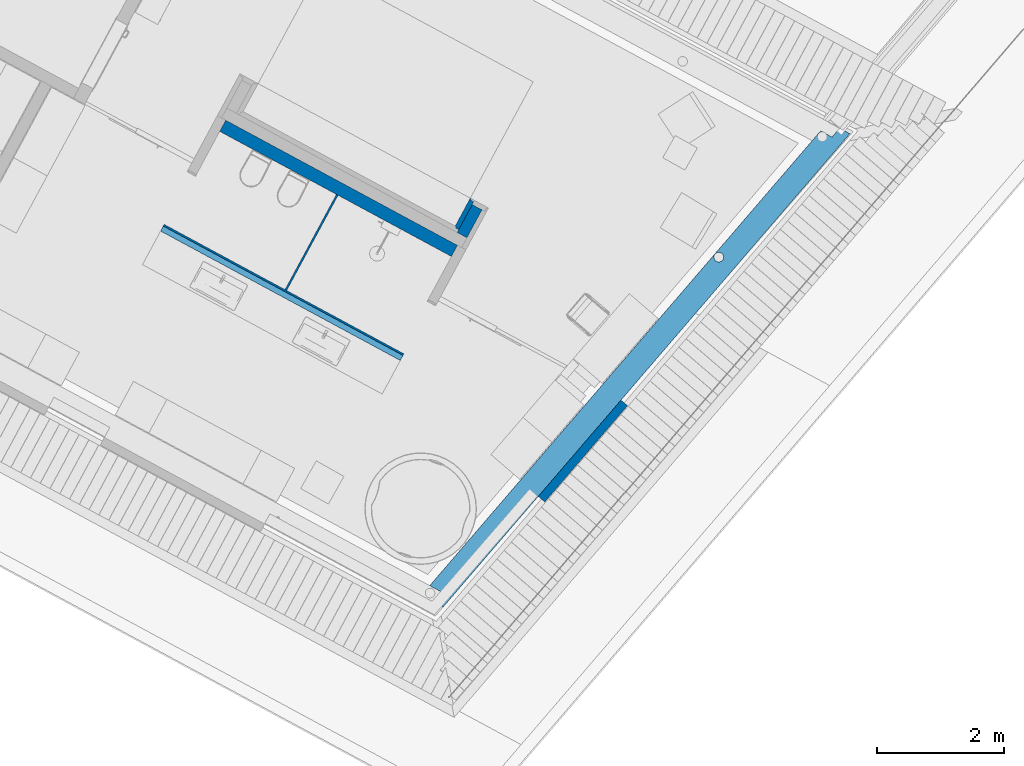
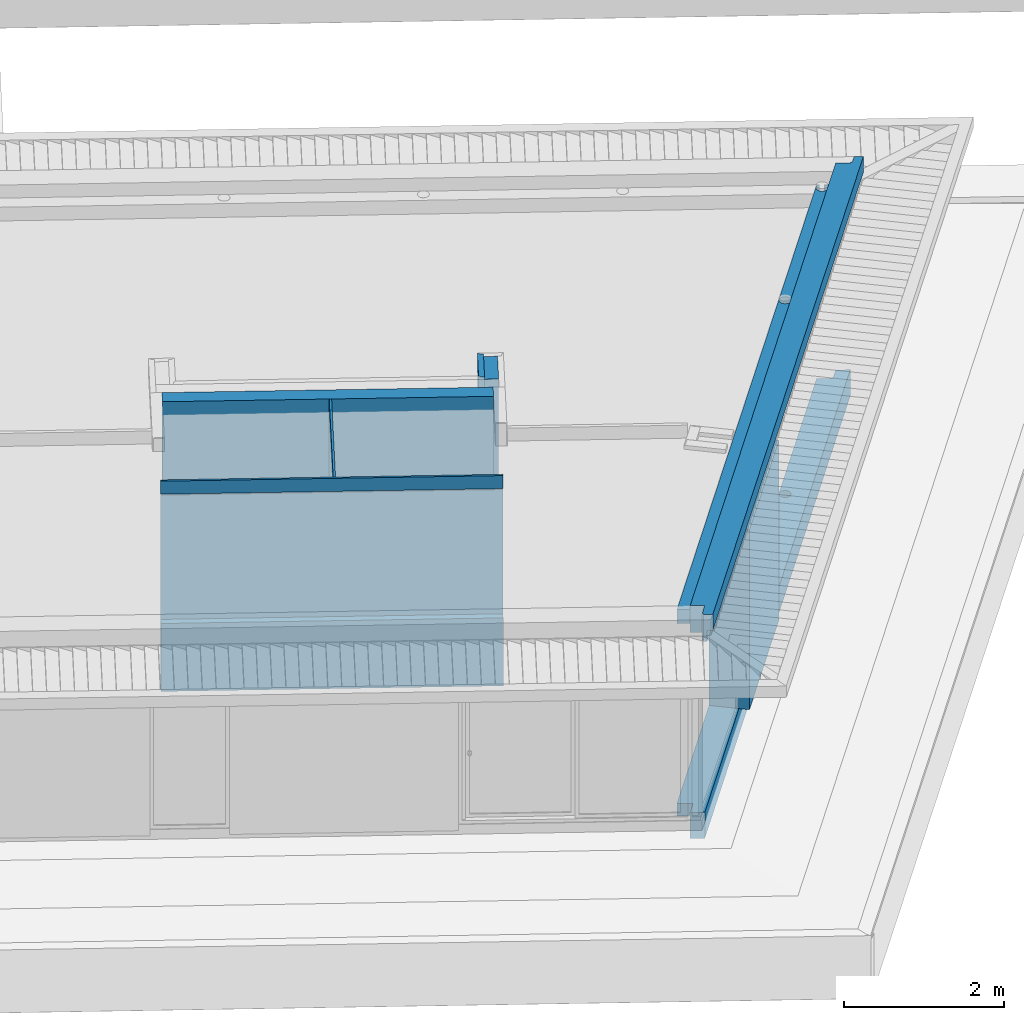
# One storey, part 10 of 48: 8 walls, 2 openings.
"""IFC2X3 building model written with IfcOpenShell, lengths in metres."""

from ifc_helpers import new_model, entity, si_unit, converted_unit, derived_unit, money_unit, direction, frame, origin_with_axes, place, context, subcontext, project, spatial, faceted_brep, material, material_list, type_object, element, save


model = new_model("IFC2X3")

# Units and contexts
model_context = context("Model", 3, precision=1e-05, world=origin_with_axes(), true_north=direction((0.0, 1.0)))
body_context = subcontext(model_context, "Body", "Model", "MODEL_VIEW")
ifc_project = project(units=[si_unit("LENGTHUNIT", "METRE"), si_unit("AREAUNIT", "SQUARE_METRE"), si_unit("VOLUMEUNIT", "CUBIC_METRE"), converted_unit("PLANEANGLEUNIT", "DEGREE", entity("IfcPlaneAngleMeasure", 0.0174532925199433), si_unit("PLANEANGLEUNIT", "RADIAN"), dimensions=[0, 0, 0, 0, 0, 0, 0]), money_unit("EUR"), converted_unit("TIMEUNIT", "Year", entity("IfcTimeMeasure", 31556926.0), si_unit("TIMEUNIT", "SECOND"), dimensions=[0, 0, 1, 0, 0, 0, 0]), si_unit("MASSUNIT", "GRAM", prefix="KILO"), si_unit("THERMODYNAMICTEMPERATUREUNIT", "DEGREE_CELSIUS"), si_unit("LUMINOUSINTENSITYUNIT", "LUMEN"), si_unit("ENERGYUNIT", "JOULE", prefix="MEGA"), derived_unit("THERMALCONDUCTANCEUNIT", [(si_unit("POWERUNIT", "WATT"), 1), (si_unit("LENGTHUNIT", "METRE"), -1), (si_unit("THERMODYNAMICTEMPERATUREUNIT", "KELVIN"), -1)]), derived_unit("SPECIFICHEATCAPACITYUNIT", [(si_unit("ENERGYUNIT", "JOULE"), 1), (si_unit("MASSUNIT", "GRAM", prefix="KILO"), -1), (si_unit("THERMODYNAMICTEMPERATUREUNIT", "KELVIN"), -1)]), derived_unit("MASSDENSITYUNIT", [(si_unit("MASSUNIT", "GRAM", prefix="KILO"), 1), (si_unit("VOLUMEUNIT", "CUBIC_METRE"), -1)])], contexts=[model_context])

# Site, building, storey
site_placement = place(None, frame((-3.949935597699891, 1.740105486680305, 0.0), z_axis=(0.0, 0.0, 1.0), x_axis=(0.8799804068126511, -0.475009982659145, 0.0)))
site = spatial("IfcSite", under=ifc_project, at=site_placement, Name="Gelände", CompositionType="ELEMENT")
building_placement = place(site_placement, origin_with_axes())
building = spatial("IfcBuilding", under=site, at=building_placement, Name="Gebäude", CompositionType="ELEMENT")
storey_placement = place(building_placement, frame((0.0, 0.0, 4.55), z_axis=(0.0, 0.0, 1.0), x_axis=(1.0, 0.0, 0.0)))
storey = spatial("IfcBuildingStorey", under=building, at=storey_placement, Name="Staffelgeschoss", CompositionType="ELEMENT", Elevation=4.55)

# Wall
ifc_material_1 = material(Name="_SIWH - MW Kalksandstein")
wall_type_1 = type_object("IfcWallType", Name="_SIWH - WI | KS 17,5 | 17,5cm 175", PredefinedType="NOTDEFINED")
wall_1_placement = place(storey_placement, frame((23.66753332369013, 7.227148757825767, -0.1900000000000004), z_axis=(0.0, 0.0, 1.0), x_axis=(0.0, -1.0, 0.0)))
element("IfcWall", 1, at=wall_1_placement, inside=storey, type_object=wall_type_1, material=ifc_material_1, Name="I-Wand013", context=body_context, shape_type="Brep", body=[
    faceted_brep([(0.0, -0.1750000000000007, 0.0), (0.0, -0.1750000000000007, 3.154), (0.0, 0.0, 3.154), (0.0, 0.0, 0.0), (0.5, -0.1750000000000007, 0.0), (0.5, -0.1750000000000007, 3.154), (0.5, 0.0, 3.154), (0.5, 0.0, 0.0)], [[[0, 1, 2, 3]], [[4, 5, 1, 0]], [[5, 6, 2, 1]], [[3, 2, 6, 7]], [[3, 7, 4, 0]], [[7, 6, 5, 4]]]),
])

# Wall, openings
ifc_material_2 = material(Name="_SIWH - Beton, Stahlbeton")
ifc_material_3 = material(Name="_SIWH - Dämmung, weich Mineralwolle")
ifc_material_4 = material(Name="_SIWH - Luftschicht vertikal")
ifc_material_5 = material(Name="_SIWH - MW Vormauerziegel")
ifc_material_list_1 = material_list([ifc_material_2, ifc_material_3, ifc_material_4, ifc_material_5])
wall_type_2 = type_object("IfcWallType", Name="_SIWH - WA | Stb. 20+WD 18+LS 2+Verblender 11,5 | 51,5cm 515", PredefinedType="NOTDEFINED")
wall_2_placement = place(storey_placement, frame((25.91612514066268, 1.424987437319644, -2.47253595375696e-09), z_axis=(0.0, 0.0, 1.0), x_axis=(0.2133784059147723, 0.9769696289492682, 0.0)))
wall_2 = element("IfcWall", 2, at=wall_2_placement, inside=storey, type_object=wall_type_2, material=ifc_material_list_1, Name="A-Wand044", context=body_context, shape_type="Brep", body=[
    faceted_brep([(7.094446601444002, 0.0543956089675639, 2.749999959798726), (7.072295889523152, 0.04575031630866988, 2.749999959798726), (7.072295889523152, 0.04575031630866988, 2.964000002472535), (7.094446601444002, 0.0543956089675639, 2.964000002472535), (9.655176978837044, -1.233012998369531e-06, 2.749999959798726), (4.342980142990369, 0.0, 2.749999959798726), (4.342980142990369, 0.125, 2.749999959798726), (6.980598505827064, 0.125, 2.749999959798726), (6.981829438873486, 0.1037832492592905, 2.749999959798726), (6.990474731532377, 0.081632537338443, 2.749999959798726), (7.005541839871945, 0.06323750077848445, 2.749999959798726), (7.025555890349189, 0.05039877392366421, 2.749999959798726), (7.048557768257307, 0.04437310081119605, 2.749999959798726), (7.11284163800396, 0.06946271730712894, 2.749999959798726), (7.125680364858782, 0.08947676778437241, 2.749999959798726), (7.131706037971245, 0.1124786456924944, 2.749999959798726), (7.13097958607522, 0.125, 2.749999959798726), (9.481828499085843, 0.1250000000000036, 2.749999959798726), (9.483059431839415, 0.103783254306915, 2.749999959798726), (9.491704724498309, 0.08163254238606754, 2.749999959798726), (9.506771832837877, 0.06323750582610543, 2.749999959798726), (9.526785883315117, 0.05039877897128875, 2.749999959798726), (9.54978776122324, 0.04437310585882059, 2.749999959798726), (9.573525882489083, 0.04575032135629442, 2.749999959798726), (9.595676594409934, 0.05439561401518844, 2.749999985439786), (9.614071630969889, 0.06946272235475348, 2.749999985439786), (9.626910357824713, 0.0894767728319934, 2.749999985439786), (9.63166732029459, 0.1076355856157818, 2.749999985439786), (7.048557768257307, 0.04437310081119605, 2.964000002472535), (0.1610329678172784, 0.1999999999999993, 2.964000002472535), (0.2047146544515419, -2.244684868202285e-06, 2.964000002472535), (9.655176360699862, -2.24468485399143e-06, 2.964000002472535), (9.63166733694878, 0.1076356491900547, 2.964000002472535), (9.626910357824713, 0.0894767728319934, 2.964000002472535), (9.614071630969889, 0.06946272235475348, 2.964000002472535), (9.595676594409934, 0.05439561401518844, 2.964000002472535), (9.573525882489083, 0.04575032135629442, 2.964000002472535), (9.54978776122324, 0.04437310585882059, 2.964000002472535), (9.526785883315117, 0.05039877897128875, 2.964000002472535), (9.506771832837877, 0.06323750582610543, 2.964000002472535), (9.491704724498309, 0.08163254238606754, 2.964000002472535), (9.483059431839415, 0.103783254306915, 2.964000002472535), (9.481682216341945, 0.1275213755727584, 2.964000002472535), (9.48770788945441, 0.1505232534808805, 2.964000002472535), (9.50054661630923, 0.1705373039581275, 2.964000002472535), (9.518941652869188, 0.185604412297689, 2.964000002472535), (9.541092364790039, 0.1942497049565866, 2.964000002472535), (9.564830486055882, 0.1956269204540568, 2.964000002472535), (9.587832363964, 0.1896012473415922, 2.964000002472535), (9.607846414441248, 0.1767625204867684, 2.964000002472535), (9.619741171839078, 0.1622405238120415, 2.964000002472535), (9.611494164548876, 0.2000000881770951, 2.964000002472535), (7.106616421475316, 0.1767625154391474, 2.964000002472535), (7.121683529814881, 0.1583674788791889, 2.964000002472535), (7.130328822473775, 0.1362167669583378, 2.964000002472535), (7.131706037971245, 0.1124786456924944, 2.964000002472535), (7.125680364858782, 0.08947676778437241, 2.964000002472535), (7.11284163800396, 0.06946271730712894, 2.964000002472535), (7.025555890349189, 0.05039877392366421, 2.964000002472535), (7.005541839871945, 0.06323750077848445, 2.964000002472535), (6.990474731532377, 0.081632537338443, 2.964000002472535), (6.981829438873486, 0.1037832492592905, 2.964000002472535), (6.980452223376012, 0.1275213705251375, 2.964000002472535), (6.986477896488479, 0.1505232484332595, 2.964000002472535), (6.999316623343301, 0.1705372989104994, 2.964000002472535), (7.017711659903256, 0.1856044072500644, 2.964000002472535), (7.039862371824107, 0.1942496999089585, 2.964000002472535), (7.06360049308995, 0.1956269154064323, 2.964000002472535), (7.086602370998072, 0.1896012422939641, 2.964000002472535), (4.342980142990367, 7.756352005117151e-09, 0.0), (0.2047146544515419, -2.082619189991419e-06, 2.749999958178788), (2.342980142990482, 0.0, 2.749999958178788), (2.342980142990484, 7.756352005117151e-09, 0.0), (4.34298014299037, 0.1249999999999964, 0.0), (9.481682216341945, 0.1275213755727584, 2.749999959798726), (7.130328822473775, 0.1362167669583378, 2.749999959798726), (7.121683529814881, 0.1583674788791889, 2.749999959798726), (7.106616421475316, 0.1767625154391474, 2.749999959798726), (7.086602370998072, 0.1896012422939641, 2.749999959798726), (7.06360049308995, 0.1956269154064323, 2.749999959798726), (7.039862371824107, 0.1942496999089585, 2.749999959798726), (7.017711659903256, 0.1856044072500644, 2.749999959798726), (6.999316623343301, 0.1705372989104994, 2.749999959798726), (6.986477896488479, 0.1505232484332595, 2.749999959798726), (6.980452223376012, 0.1275213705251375, 2.749999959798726), (4.342980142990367, 0.200000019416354, 2.749999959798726), (9.406779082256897, 0.2000000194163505, 2.749999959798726), (9.483547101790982, 0.1999999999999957, 2.749999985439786), (9.492665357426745, 0.1582513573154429, 2.749999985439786), (9.48770788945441, 0.1505232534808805, 2.749999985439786), (0.1610329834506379, 0.2000000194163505, 2.749999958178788), (0.177413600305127, 0.125, 2.749999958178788), (9.50054661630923, 0.1705373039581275, 2.749999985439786), (9.518941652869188, 0.185604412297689, 2.749999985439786), (9.541092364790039, 0.1942497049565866, 2.749999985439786), (9.564830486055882, 0.1956269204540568, 2.749999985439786), (9.587832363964, 0.1896012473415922, 2.749999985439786), (9.607846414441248, 0.1767625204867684, 2.749999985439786), (9.619741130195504, 0.1622405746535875, 2.749999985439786), (9.61149413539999, 0.2000000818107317, 2.749999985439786), (4.342980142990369, 0.200000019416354, 0.0), (2.342980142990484, 0.200000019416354, 0.0), (2.342980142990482, 0.200000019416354, 2.749999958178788), (2.342980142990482, 0.125, 2.749999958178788), (2.342980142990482, 0.125, 0.0)], [[[0, 1, 2, 3]], [[4, 5, 6, 7, 8, 9, 10, 11, 12, 1, 0, 13, 14, 15, 16, 17, 18, 19, 20, 21, 22, 23, 24, 25, 26, 27]], [[1, 12, 28, 2]], [[29, 30, 31, 32, 33, 34, 35, 36, 37, 38, 39, 40, 41, 42, 43, 44, 45, 46, 47, 48, 49, 50, 51], [52, 53, 54, 55, 56, 57, 3, 2, 28, 58, 59, 60, 61, 62, 63, 64, 65, 66, 67, 68]], [[13, 0, 3, 57]], [[69, 5, 4, 31, 30, 70, 71, 72]], [[5, 69, 73, 6]], [[74, 17, 16, 75, 76, 77, 78, 79, 80, 81, 82, 83, 84, 7, 6, 85, 86, 87, 88, 89]], [[7, 84, 62, 61, 8]], [[9, 8, 61, 60]], [[10, 9, 60, 59]], [[11, 10, 59, 58]], [[12, 11, 58, 28]], [[14, 13, 57, 56]], [[15, 14, 56, 55]], [[16, 15, 55, 54, 75]], [[17, 74, 42, 41, 18]], [[19, 18, 41, 40]], [[20, 19, 40, 39]], [[21, 20, 39, 38]], [[22, 21, 38, 37]], [[23, 22, 37, 36]], [[23, 36, 35, 24]], [[35, 34, 25, 24]], [[34, 33, 26, 25]], [[33, 32, 27, 26]], [[32, 31, 4, 27]], [[90, 91, 70, 30, 29]], [[74, 89, 43, 42]], [[43, 89, 88, 92, 44]], [[45, 44, 92, 93]], [[46, 45, 93, 94]], [[47, 46, 94, 95]], [[48, 47, 95, 96]], [[49, 48, 96, 97]], [[50, 49, 97, 98]], [[51, 50, 98, 99]], [[85, 100, 101, 102, 90, 29, 51, 99, 87, 86]], [[77, 76, 53, 52]], [[76, 75, 54, 53]], [[84, 83, 63, 62]], [[83, 82, 64, 63]], [[82, 81, 65, 64]], [[81, 80, 66, 65]], [[80, 79, 67, 66]], [[79, 78, 68, 67]], [[78, 77, 52, 68]], [[103, 71, 70, 91]], [[104, 72, 71, 103]], [[73, 69, 72, 104, 101, 100]], [[73, 100, 85, 6]], [[88, 87, 99, 98, 97, 96, 95, 94, 93, 92]], [[91, 90, 102, 103]], [[102, 101, 104, 103]]]),
    faceted_brep([(4.342980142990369, -0.1800000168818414, 0.0), (4.342980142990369, -0.1800000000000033, 2.749999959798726), (9.878732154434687, -0.1800000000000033, 2.749999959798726), (9.878732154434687, -0.1799999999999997, 3.164000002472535), (0.03931351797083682, -0.1799999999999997, 3.164000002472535), (0.03931351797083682, -0.1799999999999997, 2.749999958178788), (2.342980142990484, -0.1800000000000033, 2.749999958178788), (2.342980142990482, -0.1800000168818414, 0.0), (4.342980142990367, 7.756352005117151e-09, 0.0), (4.342980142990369, 0.0, 2.749999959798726), (9.83941863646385, 0.0, 2.749999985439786), (9.83941863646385, 0.0, 3.164000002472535), (0.0, 0.0, 3.164000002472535), (0.0, 0.0, 2.749999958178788), (2.342980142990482, 0.0, 2.749999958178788), (2.342980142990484, 7.756352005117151e-09, 0.0)], [[[0, 1, 2, 3, 4, 5, 6, 7]], [[1, 0, 8, 9]], [[2, 1, 9, 10]], [[2, 10, 11, 3]], [[12, 4, 3, 11]], [[13, 5, 4, 12]], [[6, 5, 13, 14]], [[7, 6, 14, 15]], [[8, 0, 7, 15]], [[9, 8, 15, 14, 13, 12, 11, 10]]]),
    faceted_brep([(4.342980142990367, -0.2000000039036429, 0.0), (4.342980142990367, -0.2000000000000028, 2.749999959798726), (9.903571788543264, -0.2000000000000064, 2.749999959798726), (9.903571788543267, -0.2000000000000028, 3.164000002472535), (-0.1405615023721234, -0.1999999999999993, 3.164000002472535), (-0.1405615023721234, -0.1999999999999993, 2.749999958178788), (2.342980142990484, -0.1999999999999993, 2.749999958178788), (2.342980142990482, -0.2000000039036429, 0.0), (4.342980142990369, -0.1800000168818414, 0.0), (4.342980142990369, -0.1799999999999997, 2.749999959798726), (9.899203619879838, -0.1799999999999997, 2.749999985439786), (9.899203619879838, -0.1799999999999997, 3.164000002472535), (-0.1449296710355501, -0.1799999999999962, 3.164000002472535), (-0.1449296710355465, -0.1799999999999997, 2.749999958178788), (2.342980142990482, -0.1799999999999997, 2.749999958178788), (2.342980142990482, -0.1800000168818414, 0.0)], [[[0, 1, 2, 3, 4, 5, 6, 7]], [[1, 0, 8, 9]], [[2, 1, 9, 10]], [[2, 10, 11, 3]], [[12, 4, 3, 11]], [[13, 5, 4, 12]], [[6, 5, 13, 14]], [[7, 6, 14, 15]], [[8, 0, 7, 15]], [[9, 8, 15, 14, 13, 12, 11, 10]]]),
    faceted_brep([(4.342980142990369, -0.2450192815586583, 2.749999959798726), (10.00040810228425, -0.2450192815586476, 2.749999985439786), (10.00040810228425, -0.2450192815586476, 2.920000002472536), (-0.1512003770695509, -0.2450192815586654, 2.920000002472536), (-0.1512003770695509, -0.2450192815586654, 2.749999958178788), (2.342980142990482, -0.2450192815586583, 2.749999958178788), (4.342980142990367, -0.2000000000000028, 2.749999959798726), (9.99057551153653, -0.2000000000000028, 2.749999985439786), (9.99057551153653, -0.2000000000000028, 2.920000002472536), (10.0212827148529, -0.1999999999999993, 2.920000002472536), (10.04639968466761, -0.3150000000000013, 2.919999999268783), (9.874639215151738, -0.3149999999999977, 2.920000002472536), (-0.1359159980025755, -0.3150000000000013, 2.920000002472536), (-0.1610329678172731, -0.1999999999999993, 2.749999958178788), (-0.1359159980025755, -0.3150000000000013, 3.164000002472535), (-0.1610329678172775, -0.1999999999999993, 3.164000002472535), (2.342980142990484, -0.1999999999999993, 2.749999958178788), (4.342980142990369, -0.3149999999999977, 2.749999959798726), (2.342980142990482, -0.3149999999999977, 2.749999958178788), (4.34298014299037, -0.3150000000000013, 0.0), (4.342980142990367, -0.2000000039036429, 0.0), (2.342980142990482, -0.2000000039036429, 0.0), (10.0212827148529, -0.1999999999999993, 3.164000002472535), (10.04639968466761, -0.3150000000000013, 3.164000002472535), (2.342980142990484, -0.3150000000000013, 0.0)], [[[0, 1, 2, 3, 4, 5]], [[1, 0, 6, 7]], [[1, 7, 8, 2]], [[8, 9, 10, 11, 12, 3, 2]], [[13, 4, 3, 12, 14, 15]], [[5, 4, 13, 16]], [[17, 0, 5, 18]], [[0, 17, 19, 20, 6]], [[6, 20, 21, 16, 13, 15, 22, 9, 8, 7]], [[23, 10, 9, 22]], [[23, 14, 12, 11, 10]], [[15, 14, 23, 22]], [[24, 18, 5, 16, 21]], [[19, 17, 18, 24]], [[20, 19, 24, 21]]]),
])
opening_1_placement = place(wall_2_placement, frame((6.939689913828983, 0.0, 2.47253595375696e-09), z_axis=(0.0, 0.0, 1.0), x_axis=(1.0, 0.0, 0.0)))
element("IfcOpeningElement", 3, at=opening_1_placement, cuts=wall_2, Name="Eckfenster-007", context=body_context, shape_type="Brep", body=[
    faceted_brep([(3.106709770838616, -0.3150000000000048, 2.74999995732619), (3.10670977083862, -2.32875863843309, 2.74999995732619), (3.10670977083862, -2.32875863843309, -2.47253595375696e-09), (3.106709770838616, -0.3150000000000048, -2.47253595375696e-09), (2.560237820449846, 0.1249999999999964, 2.74999995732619), (-2.596709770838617, 0.125, 2.74999995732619), (-2.596709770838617, -2.328758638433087, 2.74999995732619), (-2.596709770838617, -2.328758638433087, -2.47253595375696e-09), (-2.596709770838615, 0.1249999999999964, -2.47253595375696e-09), (2.560237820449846, 0.1249999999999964, -2.47253595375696e-09), (-0.0339621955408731, 2.213758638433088, -2.47253595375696e-09), (-0.0339621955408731, 2.213758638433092, 2.74999995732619), (-2.596709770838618, 2.213758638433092, 2.74999995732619), (-2.596709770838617, 2.213758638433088, -2.47253595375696e-09)], [[[0, 1, 2, 3]], [[4, 5, 6, 1, 0]], [[6, 7, 2, 1]], [[8, 9, 3, 2, 7]], [[0, 3, 9, 10, 11, 4]], [[5, 4, 11, 12]], [[5, 8, 7, 6]], [[9, 8, 13, 10]], [[10, 13, 12, 11]], [[8, 5, 12, 13]]]),
])
opening_2_placement = place(wall_2_placement, frame((1.113003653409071, 0.0, 2.47253595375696e-09), z_axis=(0.0, 0.0, 1.0), x_axis=(1.0, 0.0, 0.0)))
element("IfcOpeningElement", 4, at=opening_2_placement, cuts=wall_2, Name="Eckfenster-007", context=body_context, shape_type="Brep", body=[
    faceted_brep([(1.229976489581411, 0.125, -2.47253595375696e-09), (1.229976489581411, 0.125, 2.749999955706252), (1.229976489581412, -2.328758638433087, 2.749999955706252), (1.229976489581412, -2.328758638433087, -2.47253595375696e-09), (1.229976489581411, 2.213758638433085, -2.47253595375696e-09), (1.229976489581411, 2.213758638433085, 2.749999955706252), (-1.012358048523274, 0.125, 2.749999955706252), (-1.366630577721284, -0.3150000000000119, 2.749999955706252), (-1.366630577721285, -2.328758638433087, 2.749999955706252), (-1.366630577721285, -2.328758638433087, -2.47253595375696e-09), (-1.012358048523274, 0.125, -2.47253595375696e-09), (-1.366630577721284, -0.3150000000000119, -2.47253595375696e-09), (0.6694369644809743, 2.213758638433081, -2.47253595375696e-09), (0.6694369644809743, 2.213758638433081, 2.749999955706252)], [[[0, 1, 2, 3]], [[1, 0, 4, 5]], [[1, 6, 7, 8, 2]], [[8, 9, 3, 2]], [[10, 0, 3, 9, 11]], [[0, 10, 12, 4]], [[5, 4, 12, 13]], [[6, 1, 5, 13]], [[7, 6, 13, 12, 10, 11]], [[11, 9, 8, 7]]]),
])

# Walls
ifc_material_6 = material(Name="_SIWH - Gipskarton")
ifc_material_7 = material(Name="_SIWH - Installationswand, raumhoch")
ifc_material_list_2 = material_list([ifc_material_6, ifc_material_6, ifc_material_7])
wall_type_3 = type_object("IfcWallType", Name="_SIWH - WI | Vorsatz-GK 2-lagig | 7,5cm  75", PredefinedType="NOTDEFINED")
wall_3_placement = place(storey_placement, frame((23.41753332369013, 6.802148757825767, -0.1899999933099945), z_axis=(0.0, 0.0, 1.0), x_axis=(0.0, 1.0, 0.0)))
element("IfcWall", 5, at=wall_3_placement, inside=storey, type_object=wall_type_3, material=ifc_material_list_2, Name="L-Wand032", context=body_context, shape_type="Brep", body=[
    faceted_brep([(0.5, 0.0, 3.153999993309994), (0.0, 0.0, 3.153999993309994), (0.0, -0.01249999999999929, 3.153999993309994), (0.5, -0.01249999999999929, 3.153999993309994), (0.5, 0.0, 0.0), (0.0, 0.0, 0.0), (0.0, -0.01249999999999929, 0.0), (0.5, -0.01249999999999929, 0.0)], [[[0, 1, 2, 3]], [[4, 5, 1, 0]], [[2, 1, 5, 6]], [[3, 2, 6, 7]], [[3, 7, 4, 0]], [[7, 6, 5, 4]]]),
    faceted_brep([(0.4874999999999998, -0.01249999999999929, 3.153999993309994), (-0.01250000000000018, -0.01249999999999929, 3.153999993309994), (-0.01250000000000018, -0.02499999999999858, 3.153999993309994), (0.4874999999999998, -0.02499999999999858, 3.153999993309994), (0.4874999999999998, -0.01249999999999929, 0.0), (-0.01250000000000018, -0.01249999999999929, 0.0), (-0.01250000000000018, -0.02499999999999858, 0.0), (0.4874999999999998, -0.02499999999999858, 0.0)], [[[0, 1, 2, 3]], [[4, 5, 1, 0]], [[2, 1, 5, 6]], [[3, 2, 6, 7]], [[3, 7, 4, 0]], [[7, 6, 5, 4]]]),
    faceted_brep([(-0.02500000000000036, -0.07499999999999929, 0.1899999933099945), (0.4749999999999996, -0.07499999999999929, 0.1899999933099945), (0.4749999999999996, -0.07499999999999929, 2.939999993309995), (-0.02500000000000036, -0.07499999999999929, 2.939999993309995), (0.4749999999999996, -0.02499999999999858, 0.1899999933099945), (-0.02500000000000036, -0.02499999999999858, 0.1899999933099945), (0.4749999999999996, -0.02499999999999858, 2.939999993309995), (-0.02500000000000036, -0.02499999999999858, 2.939999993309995)], [[[0, 1, 2, 3]], [[4, 1, 0, 5]], [[1, 4, 6, 2]], [[3, 2, 6, 7]], [[5, 0, 3, 7]], [[4, 5, 7, 6]]]),
    faceted_brep([(-0.02500000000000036, -0.07499999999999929, 2.954999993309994), (0.4749999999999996, -0.07499999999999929, 2.954999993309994), (0.4749999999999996, -0.07499999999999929, 3.153999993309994), (-0.02500000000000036, -0.07499999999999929, 3.153999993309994), (0.4749999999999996, -0.02499999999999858, 2.954999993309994), (-0.02500000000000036, -0.02499999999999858, 2.954999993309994), (0.4749999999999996, -0.02499999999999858, 3.153999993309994), (-0.02500000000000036, -0.02499999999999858, 3.153999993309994)], [[[0, 1, 2, 3]], [[4, 1, 0, 5]], [[1, 4, 6, 2]], [[2, 6, 7, 3]], [[5, 0, 3, 7]], [[4, 5, 7, 6]]]),
])
wall_type_4 = type_object("IfcWallType", Name="_SIWH - WI | Vorsatz-GK 2-lagig | 20cm 200", PredefinedType="NOTDEFINED")
wall_4_placement = place(storey_placement, frame((23.59253332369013, 6.552148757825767, -0.2999999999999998), z_axis=(0.0, 0.0, 1.0), x_axis=(-1.0, 0.0, 0.0)))
element("IfcWall", 6, at=wall_4_placement, inside=storey, type_object=wall_type_4, material=ifc_material_list_2, Name="L-Wand022", context=body_context, shape_type="Brep", body=[
    faceted_brep([(4.150000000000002, 0.1875, 3.263999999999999), (0.0, 0.1875, 3.263999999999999), (0.0, 0.1875, 0.1100000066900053), (4.150000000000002, 0.1875, 0.1100000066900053), (0.0, 0.2000000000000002, 3.263999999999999), (4.150000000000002, 0.2000000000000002, 3.263999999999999), (0.0, 0.2000000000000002, 0.1100000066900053), (4.150000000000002, 0.2000000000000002, 0.1100000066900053)], [[[0, 1, 2, 3]], [[4, 1, 0, 5]], [[1, 4, 6, 2]], [[3, 2, 6, 7]], [[5, 0, 3, 7]], [[4, 5, 7, 6]]]),
    faceted_brep([(4.150000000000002, 0.1749999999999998, 3.263999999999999), (0.0, 0.1749999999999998, 3.263999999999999), (0.0, 0.1749999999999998, 0.1100000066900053), (4.150000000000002, 0.1749999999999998, 0.1100000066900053), (0.0, 0.1875, 3.263999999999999), (4.150000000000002, 0.1875, 3.263999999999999), (0.0, 0.1875, 0.1100000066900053), (4.150000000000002, 0.1875, 0.1100000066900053)], [[[0, 1, 2, 3]], [[4, 1, 0, 5]], [[1, 4, 6, 2]], [[3, 2, 6, 7]], [[5, 0, 3, 7]], [[4, 5, 7, 6]]]),
    faceted_brep([(0.0, 0.1749999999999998, 0.2999999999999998), (0.0, 0.0, 0.2999999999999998), (0.0, 0.0, 3.05), (0.0, 0.1749999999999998, 3.05), (4.150000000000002, 0.0, 0.2999999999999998), (4.150000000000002, 0.1749999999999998, 0.2999999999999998), (4.150000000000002, 0.0, 3.05), (4.150000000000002, 0.1749999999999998, 3.05)], [[[0, 1, 2, 3]], [[4, 1, 0, 5]], [[1, 4, 6, 2]], [[3, 2, 6, 7]], [[5, 0, 3, 7]], [[4, 5, 7, 6]]]),
    faceted_brep([(4.150000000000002, 0.0, 3.263999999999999), (0.0, 0.0, 3.263999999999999), (0.0, 0.0, 3.065), (4.150000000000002, 0.0, 3.065), (0.0, 0.1749999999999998, 3.263999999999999), (4.150000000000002, 0.1749999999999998, 3.263999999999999), (0.0, 0.1749999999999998, 3.065), (4.150000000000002, 0.1749999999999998, 3.065)], [[[0, 1, 2, 3]], [[4, 1, 0, 5]], [[1, 4, 6, 2]], [[3, 2, 6, 7]], [[5, 0, 3, 7]], [[4, 5, 7, 6]]]),
])
ifc_material_list_3 = material_list([ifc_material_2, ifc_material_3])
wall_type_5 = type_object("IfcWallType", Name="_SIWH - WA | Stb. 20+WD 18 | 38cm 380", PredefinedType="NOTDEFINED")
wall_5_placement = place(storey_placement, frame((25.91612514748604, 1.424987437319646, -0.3999999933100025), z_axis=(0.0, 0.0, 1.0), x_axis=(0.2133784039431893, 0.9769696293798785, 0.0)))
element("IfcWall", 7, at=wall_5_placement, inside=storey, type_object=wall_type_5, material=ifc_material_list_3, Name="A-Wand049", context=body_context, shape_type="Brep", body=[
    faceted_brep([(0.204714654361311, 0.0, 0.3999999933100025), (9.655175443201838, 0.0, 0.3999999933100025), (9.611493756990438, 0.2000000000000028, 0.3999999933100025), (0.1610329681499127, 0.1999999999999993, 0.3999999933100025), (7.112841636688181, 0.06946270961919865, 0.3999999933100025), (7.094446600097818, 0.05439560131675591, 0.3999999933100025), (7.07229588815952, 0.04575030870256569, 0.3999999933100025), (7.048557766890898, 0.04437309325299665, 0.3999999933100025), (7.025555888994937, 0.05039876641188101, 0.3999999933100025), (7.005541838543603, 0.0632374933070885, 0.3999999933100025), (6.990474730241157, 0.08163252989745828, 0.3999999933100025), (6.981829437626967, 0.1037832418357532, 0.3999999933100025), (6.9804522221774, 0.1275213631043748, 0.3999999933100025), (6.986477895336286, 0.1505232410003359, 0.3999999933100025), (6.999316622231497, 0.1705372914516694, 0.3999999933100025), (7.01771165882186, 0.1856043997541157, 0.3999999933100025), (7.039862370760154, 0.1942496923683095, 0.3999999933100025), (7.06360049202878, 0.195626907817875, 0.3999999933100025), (7.086602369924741, 0.189601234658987, 0.3999999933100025), (7.106616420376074, 0.1767625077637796, 0.3999999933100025), (7.121683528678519, 0.1583674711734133, 0.3999999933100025), (7.130328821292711, 0.1362167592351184, 0.3999999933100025), (7.131706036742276, 0.1124786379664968, 0.3999999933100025), (7.125680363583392, 0.08947676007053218, 0.3999999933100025), (0.2047146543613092, 2.171397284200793e-09, 0.210000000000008), (9.65517542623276, 7.769422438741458e-08, 0.210000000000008), (9.61149376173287, 0.2000000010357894, 0.210000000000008), (0.1610329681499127, 0.1999999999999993, 0.210000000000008), (7.112841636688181, 0.06946270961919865, 0.249999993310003), (7.094446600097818, 0.05439560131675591, 0.249999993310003), (7.07229588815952, 0.04575030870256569, 0.249999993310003), (7.048557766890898, 0.04437309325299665, 0.249999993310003), (7.025555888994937, 0.05039876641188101, 0.249999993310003), (7.005541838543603, 0.0632374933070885, 0.249999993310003), (6.990474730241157, 0.08163252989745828, 0.249999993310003), (6.981829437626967, 0.1037832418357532, 0.249999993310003), (6.9804522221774, 0.1275213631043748, 0.249999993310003), (6.986477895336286, 0.1505232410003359, 0.249999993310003), (6.999316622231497, 0.1705372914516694, 0.249999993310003), (7.01771165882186, 0.1856043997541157, 0.249999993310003), (7.039862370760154, 0.1942496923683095, 0.249999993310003), (7.06360049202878, 0.195626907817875, 0.249999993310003), (7.086602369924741, 0.189601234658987, 0.249999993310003), (7.106616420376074, 0.1767625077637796, 0.249999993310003), (7.121683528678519, 0.1583674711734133, 0.249999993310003), (7.130328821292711, 0.1362167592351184, 0.249999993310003), (7.131706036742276, 0.1124786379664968, 0.249999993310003), (7.125680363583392, 0.08947676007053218, 0.249999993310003)], [[[0, 1, 2, 3], [4, 5, 6, 7, 8, 9, 10, 11, 12, 13, 14, 15, 16, 17, 18, 19, 20, 21, 22, 23]], [[0, 24, 25, 1]], [[1, 25, 26, 2]], [[2, 26, 27, 3]], [[3, 27, 24, 0]], [[5, 4, 28, 29]], [[6, 5, 29, 30]], [[7, 6, 30, 31]], [[8, 7, 31, 32]], [[9, 8, 32, 33]], [[10, 9, 33, 34]], [[11, 10, 34, 35]], [[12, 11, 35, 36]], [[13, 12, 36, 37]], [[14, 13, 37, 38]], [[15, 14, 38, 39]], [[16, 15, 39, 40]], [[17, 16, 40, 41]], [[18, 17, 41, 42]], [[19, 18, 42, 43]], [[20, 19, 43, 44]], [[21, 20, 44, 45]], [[22, 21, 45, 46]], [[23, 22, 46, 47]], [[4, 23, 47, 28]], [[27, 26, 25, 24]], [[40, 39, 38, 37, 36, 35, 34, 33, 32, 31, 30, 29, 28, 47, 46, 45, 44, 43, 42, 41]]]),
    faceted_brep([(0.0393135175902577, -0.1799999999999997, 0.0), (0.0, 0.0, 0.0), (9.839418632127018, 0.0, 0.0), (9.878732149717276, -0.1799999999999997, 0.0), (0.0393135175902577, -0.1799999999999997, 0.3999999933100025), (0.0, 0.0, 0.3999999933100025), (9.839418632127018, 0.0, 0.3999999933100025), (9.878732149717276, -0.1799999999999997, 0.3999999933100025)], [[[0, 1, 2, 3]], [[0, 4, 5, 1]], [[1, 5, 6, 2]], [[6, 7, 3, 2]], [[4, 0, 3, 7]], [[5, 4, 7, 6]]]),
])
ifc_material_8 = material(Name="_SIWH - MW Kalksandstein, nichttragend")
wall_type_6 = type_object("IfcWallType", Name="_SIWH - MW Kalksandstein, nichttragend 120", PredefinedType="NOTDEFINED")
wall_6_placement = place(storey_placement, frame((19.3694197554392, 4.527100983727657, -0.2999999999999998), z_axis=(0.0, 0.0, 1.0), x_axis=(0.9999999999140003, 1.311485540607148e-05, 0.0)))
element("IfcWall", 8, at=wall_6_placement, inside=storey, type_object=wall_type_6, material=ifc_material_8, Name="L-Wand045", context=body_context, shape_type="Brep", body=[
    faceted_brep([(4.292651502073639, 0.0, 1.149999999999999), (4.292651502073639, 0.0, 0.1100000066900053), (4.292651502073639, 0.120000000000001, 0.1100000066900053), (4.292651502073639, 0.120000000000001, 1.149999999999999), (0.0, 0.0, 1.149999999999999), (0.0, 0.0, 0.1100000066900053), (0.0, 0.1200000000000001, 0.1100000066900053), (0.0, 0.1200000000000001, 1.149999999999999)], [[[0, 1, 2, 3]], [[4, 5, 1, 0]], [[5, 6, 2, 1]], [[3, 2, 6, 7]], [[7, 4, 0, 3]], [[7, 6, 5, 4]]]),
])
ifc_material_9 = material(Name="_SIWH - Glas, Normalglas")
wall_type_7 = type_object("IfcWallType", Name="_SIWH - Glas, Normalglas 30", PredefinedType="NOTDEFINED")
wall_7_placement = place(storey_placement, frame((19.36941818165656, 4.647100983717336, 0.8499999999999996), z_axis=(0.0, 0.0, 1.0), x_axis=(0.9999999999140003, 1.311485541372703e-05, 0.0)))
element("IfcWall", 9, at=wall_7_placement, inside=storey, type_object=wall_type_7, material=ifc_material_9, Name="L-Wand047", context=body_context, shape_type="Brep", body=[
    faceted_brep([(0.0, 0.0, 1.9), (4.292651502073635, 0.0, 1.9), (4.292651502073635, 0.0, 0.0), (0.0, 0.0, 0.0), (4.292651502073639, -0.02999999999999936, 1.9), (0.0, -0.02999999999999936, 1.9), (4.292651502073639, -0.03000000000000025, 0.0), (0.0, -0.02999999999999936, 0.0)], [[[0, 1, 2, 3]], [[4, 1, 0, 5]], [[1, 4, 6, 2]], [[3, 2, 6, 7]], [[5, 0, 3, 7]], [[4, 5, 7, 6]]]),
    faceted_brep([(4.292651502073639, -0.02999999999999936, 1.915), (4.292651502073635, 0.0, 1.915), (4.292651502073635, 0.0, 2.114), (4.292651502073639, -0.02999999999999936, 2.114), (0.0, 0.0, 1.915), (0.0, -0.02999999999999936, 1.915), (0.0, 0.0, 2.114), (0.0, -0.02999999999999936, 2.114)], [[[0, 1, 2, 3]], [[4, 1, 0, 5]], [[1, 4, 6, 2]], [[7, 3, 2, 6]], [[5, 0, 3, 7]], [[4, 5, 7, 6]]]),
])
wall_8_placement = place(storey_placement, frame((21.54787388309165, 4.647129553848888, 0.0), z_axis=(0.0, 0.0, 1.0), x_axis=(-1.055825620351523e-05, 0.9999999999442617, 0.0)))
element("IfcWall", 10, at=wall_8_placement, inside=storey, type_object=wall_type_7, material=ifc_material_9, Name="L-Wand046", context=body_context, shape_type="Brep", body=[
    faceted_brep([(1.705019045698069, -0.01500000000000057, 2.75), (3.834898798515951e-08, -0.01499999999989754, 2.75), (3.834898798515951e-08, -0.01499999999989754, 0.8499999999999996), (0.0, -0.01499999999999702, 0.0), (1.705019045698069, -0.01500000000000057, 0.0), (-3.834898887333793e-08, 0.01499999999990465, 2.75), (1.705019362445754, 0.01499999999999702, 2.75), (-3.834898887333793e-08, 0.01499999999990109, 0.8499999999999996), (0.0, 0.01500000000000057, 0.0), (1.705019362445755, 0.01499999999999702, 0.0)], [[[0, 1, 2, 3, 4]], [[5, 1, 0, 6]], [[1, 5, 7, 8, 3, 2]], [[8, 9, 4, 3]], [[6, 0, 4, 9]], [[5, 6, 9, 8, 7]]]),
    faceted_brep([(1.705019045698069, -0.01500000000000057, 2.964), (3.834898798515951e-08, -0.01499999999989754, 2.964), (3.834898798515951e-08, -0.01499999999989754, 2.765), (1.705019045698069, -0.01500000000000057, 2.765), (-3.834898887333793e-08, 0.01499999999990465, 2.964), (1.705019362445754, 0.01499999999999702, 2.964), (-3.834898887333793e-08, 0.01499999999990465, 2.765), (1.705019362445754, 0.01499999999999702, 2.765)], [[[0, 1, 2, 3]], [[4, 1, 0, 5]], [[1, 4, 6, 2]], [[3, 2, 6, 7]], [[5, 0, 3, 7]], [[4, 5, 7, 6]]]),
])

save(model, "model.ifc")
